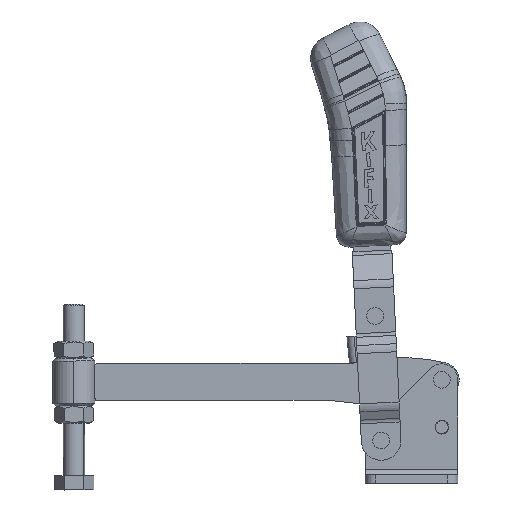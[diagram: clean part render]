
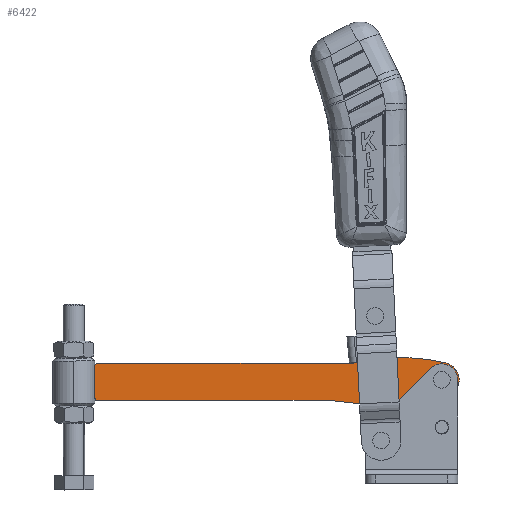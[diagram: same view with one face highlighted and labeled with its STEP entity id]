
A CAD part, top view. The second image highlights one B-rep face of the part: STEP entity #6422.
In plain terms, the highlighted planar face has unit normal (0, 0, 1) as drawn and (0, -1, 0) by its records, which use the part's own axes.
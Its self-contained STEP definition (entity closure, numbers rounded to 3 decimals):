
#139 = VERTEX_POINT ( 'NONE', #13111 ) ;
#171 = CIRCLE ( 'NONE', #8070, 2.4 ) ;
#388 = DIRECTION ( 'NONE',  ( 0., 0., 1. ) ) ;
#423 = EDGE_CURVE ( 'NONE', #12934, #5163, #16608, .T. ) ;
#1411 = ORIENTED_EDGE ( 'NONE', *, *, #10478, .F. ) ;
#1762 = DIRECTION ( 'NONE',  ( 0., 1., 0. ) ) ;
#1776 = DIRECTION ( 'NONE',  ( 0., 0., -1. ) ) ;
#2425 = EDGE_CURVE ( 'NONE', #4267, #15979, #22674, .T. ) ;
#3559 = FACE_BOUND ( 'NONE', #22668, .T. ) ;
#3876 = LINE ( 'NONE', #13121, #13313 ) ;
#4267 = VERTEX_POINT ( 'NONE', #4891 ) ;
#4582 = EDGE_CURVE ( 'NONE', #11206, #5163, #8504, .T. ) ;
#4592 = VERTEX_POINT ( 'NONE', #10060 ) ;
#4788 = CARTESIAN_POINT ( 'NONE',  ( 74.35, 0., -5.35 ) ) ;
#4828 = DIRECTION ( 'NONE',  ( 0., -1., 0. ) ) ;
#4891 = CARTESIAN_POINT ( 'NONE',  ( -12.55, 0., 7.65 ) ) ;
#4984 = CARTESIAN_POINT ( 'NONE',  ( -56.018, 0., 0. ) ) ;
#5163 = VERTEX_POINT ( 'NONE', #9039 ) ;
#5180 = EDGE_LOOP ( 'NONE', ( #19784, #20498, #1411, #12936, #20819, #18682, #14473, #16945, #14469 ) ) ;
#5380 = EDGE_CURVE ( 'NONE', #4267, #18668, #3876, .T. ) ;
#5600 = CIRCLE ( 'NONE', #10515, 2.4 ) ;
#6371 = EDGE_CURVE ( 'NONE', #11206, #22466, #18243, .T. ) ;
#6422 = ADVANCED_FACE ( 'NONE', ( #17128, #8291, #3559 ), #17994, .T. ) ;
#6564 = DIRECTION ( 'NONE',  ( 0., 0., -1. ) ) ;
#6759 = DIRECTION ( 'NONE',  ( 0., 0., 1. ) ) ;
#6840 = CARTESIAN_POINT ( 'NONE',  ( -56.018, 0., 0. ) ) ;
#7038 = CIRCLE ( 'NONE', #19539, 6.532 ) ;
#7407 = DIRECTION ( 'NONE',  ( 0., -1., 0. ) ) ;
#7427 = CARTESIAN_POINT ( 'NONE',  ( -22.55, 0., -6.35 ) ) ;
#7517 = EDGE_CURVE ( 'NONE', #22466, #9252, #10216, .T. ) ;
#7952 = CARTESIAN_POINT ( 'NONE',  ( -56.018, 0., 0. ) ) ;
#8070 = AXIS2_PLACEMENT_3D ( 'NONE', #6840, #19205, #8621 ) ;
#8291 = FACE_BOUND ( 'NONE', #9794, .T. ) ;
#8504 = CIRCLE ( 'NONE', #16169, 1. ) ;
#8538 = CARTESIAN_POINT ( 'NONE',  ( -40.05, 0., 66.174 ) ) ;
#8621 = DIRECTION ( 'NONE',  ( 0., 0., 1. ) ) ;
#8847 = VECTOR ( 'NONE', #9052, 1000. ) ;
#9039 = CARTESIAN_POINT ( 'NONE',  ( 75.35, 0., -5.35 ) ) ;
#9052 = DIRECTION ( 'NONE',  ( -1., 0., 0. ) ) ;
#9070 = ORIENTED_EDGE ( 'NONE', *, *, #19346, .T. ) ;
#9252 = VERTEX_POINT ( 'NONE', #20786 ) ;
#9314 = CARTESIAN_POINT ( 'NONE',  ( -33.018, 0., 0. ) ) ;
#9325 = CARTESIAN_POINT ( 'NONE',  ( -56.018, 0., 2.4 ) ) ;
#9706 = ORIENTED_EDGE ( 'NONE', *, *, #13630, .T. ) ;
#9742 = DIRECTION ( 'NONE',  ( 0., 0., -1. ) ) ;
#9794 = EDGE_LOOP ( 'NONE', ( #9706, #9070 ) ) ;
#9992 = DIRECTION ( 'NONE',  ( 0., -1., 0. ) ) ;
#10060 = CARTESIAN_POINT ( 'NONE',  ( -33.018, 0., -2.4 ) ) ;
#10167 = CARTESIAN_POINT ( 'NONE',  ( -57.55, 0., 6.35 ) ) ;
#10216 = CIRCLE ( 'NONE', #10614, 74.606 ) ;
#10255 = AXIS2_PLACEMENT_3D ( 'NONE', #15409, #4828, #17185 ) ;
#10339 = DIRECTION ( 'NONE',  ( 0., 0., 1. ) ) ;
#10414 = VERTEX_POINT ( 'NONE', #9325 ) ;
#10478 = EDGE_CURVE ( 'NONE', #22794, #15979, #7038, .T. ) ;
#10515 = AXIS2_PLACEMENT_3D ( 'NONE', #21576, #11010, #388 ) ;
#10567 = CIRCLE ( 'NONE', #11917, 2.4 ) ;
#10614 = AXIS2_PLACEMENT_3D ( 'NONE', #8538, #20906, #10339 ) ;
#11010 = DIRECTION ( 'NONE',  ( 0., 1., 0. ) ) ;
#11079 = DIRECTION ( 'NONE',  ( 0., 0., 1. ) ) ;
#11206 = VERTEX_POINT ( 'NONE', #21574 ) ;
#11436 = AXIS2_PLACEMENT_3D ( 'NONE', #12385, #1762, #14134 ) ;
#11917 = AXIS2_PLACEMENT_3D ( 'NONE', #9314, #21642, #11079 ) ;
#11933 = CARTESIAN_POINT ( 'NONE',  ( -57.55, 0., -6.35 ) ) ;
#12385 = CARTESIAN_POINT ( 'NONE',  ( -40.05, 0., 66.174 ) ) ;
#12532 = CARTESIAN_POINT ( 'NONE',  ( -57.55, 0., -6.35 ) ) ;
#12934 = VERTEX_POINT ( 'NONE', #13444 ) ;
#12936 = ORIENTED_EDGE ( 'NONE', *, *, #21322, .F. ) ;
#13045 = DIRECTION ( 'NONE',  ( 1., 0., 0. ) ) ;
#13111 = CARTESIAN_POINT ( 'NONE',  ( -33.018, 0., 2.4 ) ) ;
#13121 = CARTESIAN_POINT ( 'NONE',  ( -56.018, 0., 7.65 ) ) ;
#13313 = VECTOR ( 'NONE', #13045, 1000. ) ;
#13444 = CARTESIAN_POINT ( 'NONE',  ( 75.35, 0., 6.65 ) ) ;
#13568 = VERTEX_POINT ( 'NONE', #21344 ) ;
#13630 = EDGE_CURVE ( 'NONE', #4592, #139, #10567, .T. ) ;
#14134 = DIRECTION ( 'NONE',  ( 0., 0., 1. ) ) ;
#14155 = CARTESIAN_POINT ( 'NONE',  ( 75.35, 0., -6.35 ) ) ;
#14385 = CIRCLE ( 'NONE', #22515, 1. ) ;
#14440 = CARTESIAN_POINT ( 'NONE',  ( -56.018, 0., 0. ) ) ;
#14469 = ORIENTED_EDGE ( 'NONE', *, *, #21120, .T. ) ;
#14473 = ORIENTED_EDGE ( 'NONE', *, *, #4582, .T. ) ;
#15409 = CARTESIAN_POINT ( 'NONE',  ( -31.969, 0., -99.665 ) ) ;
#15515 = VECTOR ( 'NONE', #1776, 1000. ) ;
#15610 = EDGE_CURVE ( 'NONE', #13568, #10414, #171, .T. ) ;
#15979 = VERTEX_POINT ( 'NONE', #10167 ) ;
#16169 = AXIS2_PLACEMENT_3D ( 'NONE', #4788, #17150, #6564 ) ;
#16608 = LINE ( 'NONE', #14155, #15515 ) ;
#16945 = ORIENTED_EDGE ( 'NONE', *, *, #423, .F. ) ;
#17128 = FACE_OUTER_BOUND ( 'NONE', #5180, .T. ) ;
#17150 = DIRECTION ( 'NONE',  ( 0., -1., 0. ) ) ;
#17185 = DIRECTION ( 'NONE',  ( 0., 0., 1. ) ) ;
#17343 = DIRECTION ( 'NONE',  ( 0., 1., 0. ) ) ;
#17913 = EDGE_CURVE ( 'NONE', #10414, #13568, #19191, .T. ) ;
#17994 = PLANE ( 'NONE',  #19468 ) ;
#18243 = LINE ( 'NONE', #12532, #8847 ) ;
#18668 = VERTEX_POINT ( 'NONE', #19369 ) ;
#18682 = ORIENTED_EDGE ( 'NONE', *, *, #6371, .F. ) ;
#19191 = CIRCLE ( 'NONE', #19811, 2.4 ) ;
#19205 = DIRECTION ( 'NONE',  ( 0., 1., 0. ) ) ;
#19346 = EDGE_CURVE ( 'NONE', #139, #4592, #5600, .T. ) ;
#19369 = CARTESIAN_POINT ( 'NONE',  ( 74.35, 0., 7.65 ) ) ;
#19468 = AXIS2_PLACEMENT_3D ( 'NONE', #14440, #7407, #19777 ) ;
#19539 = AXIS2_PLACEMENT_3D ( 'NONE', #7952, #20326, #9742 ) ;
#19777 = DIRECTION ( 'NONE',  ( 0., 0., -1. ) ) ;
#19784 = ORIENTED_EDGE ( 'NONE', *, *, #5380, .F. ) ;
#19811 = AXIS2_PLACEMENT_3D ( 'NONE', #4984, #17343, #6759 ) ;
#20326 = DIRECTION ( 'NONE',  ( 0., 1., 0. ) ) ;
#20481 = CIRCLE ( 'NONE', #11436, 74.606 ) ;
#20498 = ORIENTED_EDGE ( 'NONE', *, *, #2425, .T. ) ;
#20571 = CARTESIAN_POINT ( 'NONE',  ( 74.35, 0., 6.65 ) ) ;
#20655 = ORIENTED_EDGE ( 'NONE', *, *, #15610, .T. ) ;
#20786 = CARTESIAN_POINT ( 'NONE',  ( -40.05, 0., -8.431 ) ) ;
#20819 = ORIENTED_EDGE ( 'NONE', *, *, #7517, .F. ) ;
#20906 = DIRECTION ( 'NONE',  ( 0., 1., 0. ) ) ;
#21120 = EDGE_CURVE ( 'NONE', #12934, #18668, #14385, .T. ) ;
#21322 = EDGE_CURVE ( 'NONE', #9252, #22794, #20481, .T. ) ;
#21344 = CARTESIAN_POINT ( 'NONE',  ( -56.018, 0., -2.4 ) ) ;
#21574 = CARTESIAN_POINT ( 'NONE',  ( 74.35, 0., -6.35 ) ) ;
#21576 = CARTESIAN_POINT ( 'NONE',  ( -33.018, 0., 0. ) ) ;
#21642 = DIRECTION ( 'NONE',  ( 0., 1., 0. ) ) ;
#22043 = ORIENTED_EDGE ( 'NONE', *, *, #17913, .T. ) ;
#22340 = DIRECTION ( 'NONE',  ( 0., 0., -1. ) ) ;
#22466 = VERTEX_POINT ( 'NONE', #7427 ) ;
#22515 = AXIS2_PLACEMENT_3D ( 'NONE', #20571, #9992, #22340 ) ;
#22668 = EDGE_LOOP ( 'NONE', ( #20655, #22043 ) ) ;
#22674 = CIRCLE ( 'NONE', #10255, 109.058 ) ;
#22794 = VERTEX_POINT ( 'NONE', #11933 ) ;
